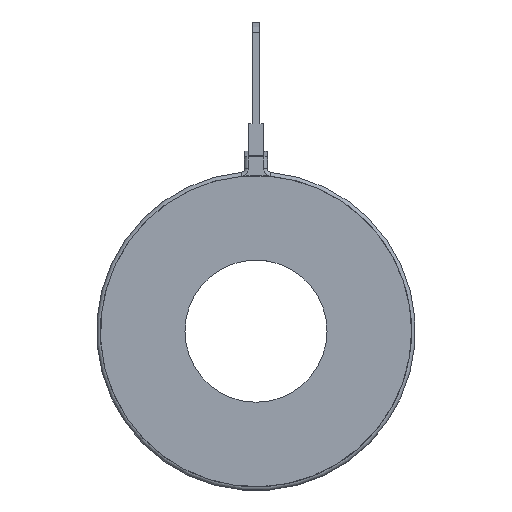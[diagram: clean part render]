
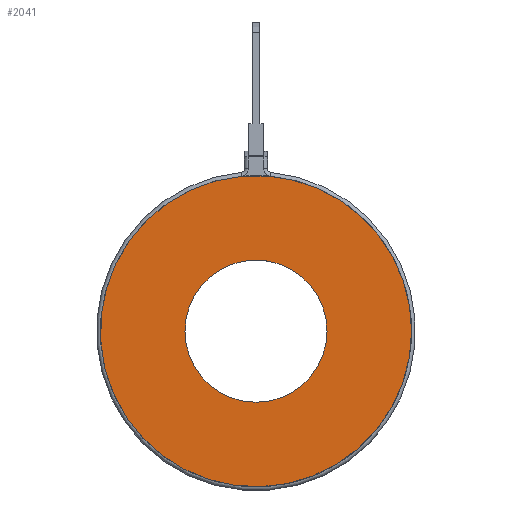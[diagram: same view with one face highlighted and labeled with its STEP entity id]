
A CAD part, front view. The second image highlights one B-rep face of the part: STEP entity #2041.
In plain terms, the highlighted planar face has unit normal (0, -1, 0).
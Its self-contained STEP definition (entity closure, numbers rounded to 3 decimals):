
#70=FACE_BOUND($,#351,.T.);
#215=FACE_OUTER_BOUND($,#350,.T.);
#350=EDGE_LOOP($,(#1758));
#351=EDGE_LOOP($,(#1759));
#754=CIRCLE($,#2253,20.25);
#759=CIRCLE($,#2265,9.25);
#926=VERTEX_POINT($,#3485);
#937=VERTEX_POINT($,#3518);
#1196=EDGE_CURVE($,#926,#926,#754,.T.);
#1211=EDGE_CURVE($,#937,#937,#759,.T.);
#1758=ORIENTED_EDGE($,*,*,#1196,.T.);
#1759=ORIENTED_EDGE($,*,*,#1211,.T.);
#1818=PLANE($,#2267);
#2041=ADVANCED_FACE($,(#215,#70),#1818,.T.);
#2253=AXIS2_PLACEMENT_3D($,#3486,#2826,#2827);
#2265=AXIS2_PLACEMENT_3D($,#3519,#2860,#2861);
#2267=AXIS2_PLACEMENT_3D($,#3521,#2864,#2865);
#2826=DIRECTION('center_axis',(0.,-1.,0.));
#2827=DIRECTION('ref_axis',(-1.,0.,0.));
#2860=DIRECTION('center_axis',(0.,1.,0.));
#2861=DIRECTION('ref_axis',(1.,0.,0.));
#2864=DIRECTION('center_axis',(0.,-1.,0.));
#2865=DIRECTION('ref_axis',(0.,0.,-1.));
#3485=CARTESIAN_POINT('',(20.25,0.,0.));
#3486=CARTESIAN_POINT('Origin',(0.,0.,0.));
#3518=CARTESIAN_POINT('',(-9.25,0.,0.));
#3519=CARTESIAN_POINT('Origin',(0.,0.,0.));
#3521=CARTESIAN_POINT('Origin',(0.,0.,0.));
